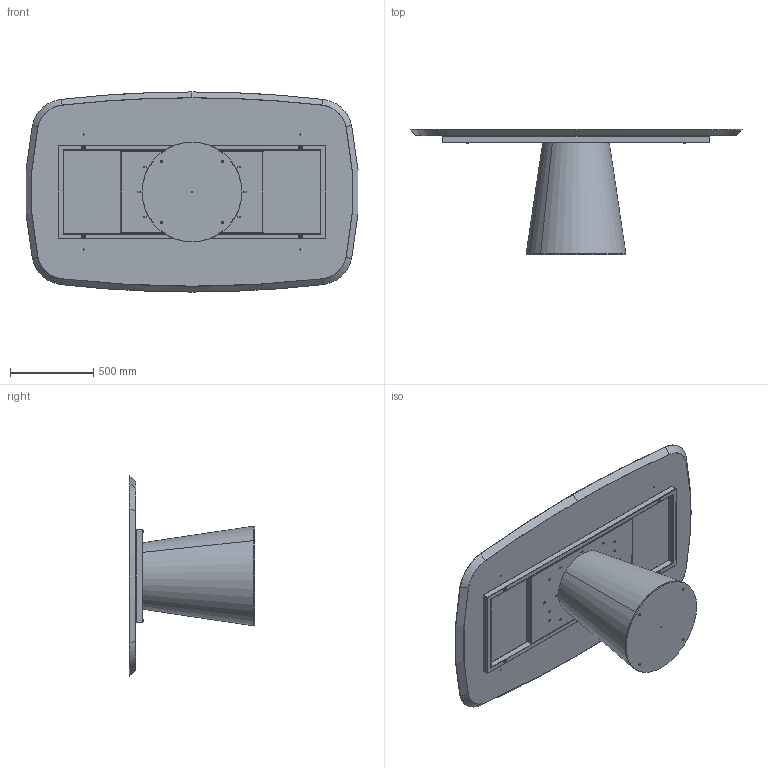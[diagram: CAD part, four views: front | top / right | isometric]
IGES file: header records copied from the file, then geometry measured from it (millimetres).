
Start section: SolidWorks IGES file using analytic representation for surfaces
Global section: file name: Y:\eforma\TECNICO\SOLIDWORKS\E-FORMA\1-TAVOLI\TEO\08 modelli 3D web\TO41W_Teo_200x120_Wood Shaped.IGS; native system: SolidWorks 2022; preprocessor: SolidWorks 2022; author: eforma.tech; date: 240802.113049; units: millimetre
Bounding box: 1990.53 x 751.19 x 1200 mm (x, y, z)
Volume: 113076664.7 mm3; surface area: 9966663 mm2
Topology: 17 solids, 17 shells, 703 faces, 1658 edges, 963 vertices
Faces by surface type: revolution 421, plane 282
